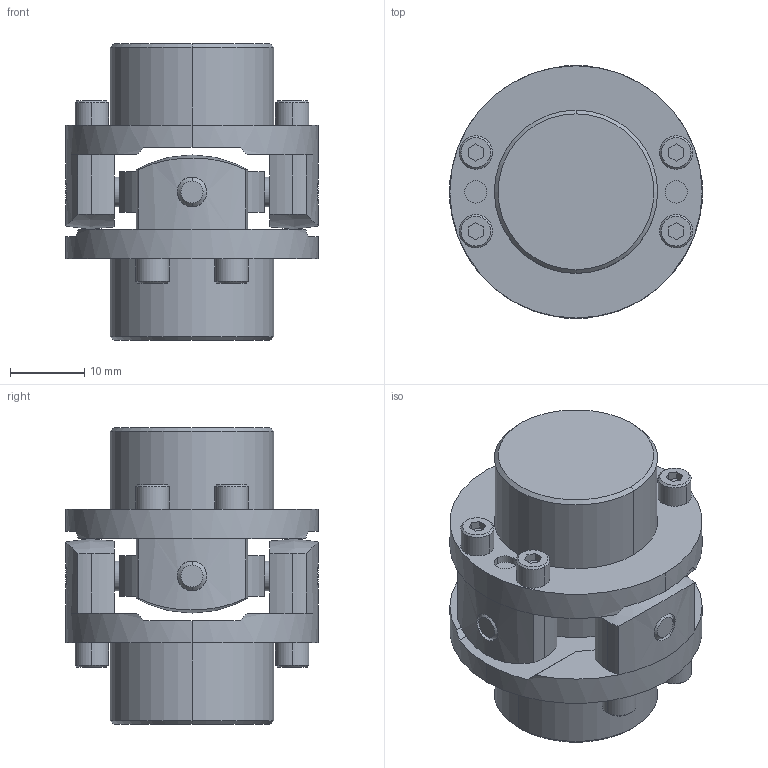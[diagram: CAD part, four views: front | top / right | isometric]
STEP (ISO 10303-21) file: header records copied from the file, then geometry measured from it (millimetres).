
FILE_DESCRIPTION((''),'2;1');
FILE_NAME('UCR-34.stp','2013-06-12T13:06:02',(''),(''),'AutoCAD STEP 2000i','AutoCAD 2000i',', , ');
FILE_SCHEMA(('CONFIG_CONTROL_DESIGN'));
Length unit declared in the file: millimetre
Products named in the file (3): UCR-34; 忣兜1; UCR-3402
Assembly tree (2 placements, depth 2):
  UCR-34
    忣兜1
    UCR-3402
Bounding box: 34 x 34 x 40 mm (x, y, z)
Volume: 19386.8 mm3; surface area: 8811.1 mm2
Topology: 1 solids, 1 shells, 214 faces, 525 edges, 350 vertices
Faces by surface type: plane 104, cylinder 78, cone 28, sphere 4
Entity records: 6786 total; most frequent: CARTESIAN_POINT 1417, DIRECTION 1167, ORIENTED_EDGE 1036, EDGE_CURVE 518, AXIS2_PLACEMENT_3D 437, VERTEX_POINT 336, VECTOR 293, LINE 293
